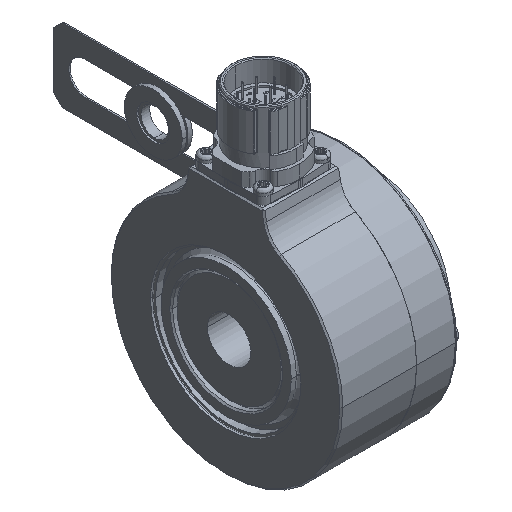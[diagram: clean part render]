
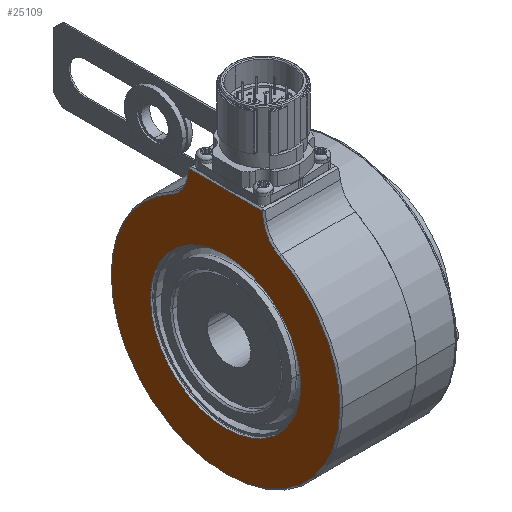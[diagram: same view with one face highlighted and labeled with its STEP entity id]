
A CAD part, isometric view. The second image highlights one B-rep face of the part: STEP entity #25109.
In plain terms, the highlighted planar face has unit normal (-1, 0, 0).
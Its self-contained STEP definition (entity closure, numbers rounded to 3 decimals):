
#107 = ORIENTED_EDGE ( 'NONE', *, *, #14998, .T. ) ;
#1011 = DIRECTION ( 'NONE',  ( -1., 0., 0. ) ) ;
#1221 = CARTESIAN_POINT ( 'NONE',  ( -26., 12.58, 45.5 ) ) ;
#1416 = ORIENTED_EDGE ( 'NONE', *, *, #18289, .T. ) ;
#1670 = DIRECTION ( 'NONE',  ( 1., 0., 0. ) ) ;
#2628 = AXIS2_PLACEMENT_3D ( 'NONE', #32034, #13464, #18656 ) ;
#2667 = VERTEX_POINT ( 'NONE', #11257 ) ;
#3428 = DIRECTION ( 'NONE',  ( 0., -1., 0. ) ) ;
#3826 = CIRCLE ( 'NONE', #28317, 26. ) ;
#3881 = CIRCLE ( 'NONE', #4459, 10.5 ) ;
#4134 = DIRECTION ( 'NONE',  ( -1., 0., 0. ) ) ;
#4459 = AXIS2_PLACEMENT_3D ( 'NONE', #18689, #13492, #35102 ) ;
#4579 = CARTESIAN_POINT ( 'NONE',  ( -26., 21.188, -3.317 ) ) ;
#5997 = VECTOR ( 'NONE', #15822, 1000. ) ;
#6630 = CIRCLE ( 'NONE', #2628, 26. ) ;
#6873 = VERTEX_POINT ( 'NONE', #1221 ) ;
#7732 = EDGE_CURVE ( 'NONE', #29821, #2667, #16906, .T. ) ;
#7979 = CARTESIAN_POINT ( 'NONE',  ( -26., -18.776, 10.364 ) ) ;
#8543 = EDGE_LOOP ( 'NONE', ( #27991, #23730, #20287, #35172, #11501, #107, #1416, #10752 ) ) ;
#9677 = DIRECTION ( 'NONE',  ( -1., 0., 0. ) ) ;
#9714 = CARTESIAN_POINT ( 'NONE',  ( -26., 40., 45.5 ) ) ;
#9810 = CARTESIAN_POINT ( 'NONE',  ( -26., 0., 0. ) ) ;
#10213 = FACE_OUTER_BOUND ( 'NONE', #8543, .T. ) ;
#10752 = ORIENTED_EDGE ( 'NONE', *, *, #26762, .T. ) ;
#10791 = CARTESIAN_POINT ( 'NONE',  ( -26., -13.141, 42.32 ) ) ;
#11257 = CARTESIAN_POINT ( 'NONE',  ( -26., -12.58, 45.5 ) ) ;
#11501 = ORIENTED_EDGE ( 'NONE', *, *, #35064, .T. ) ;
#12240 = LINE ( 'NONE', #9714, #19043 ) ;
#12305 = CARTESIAN_POINT ( 'NONE',  ( -26., 0., 0. ) ) ;
#13086 = DIRECTION ( 'NONE',  ( 0., -1., 0. ) ) ;
#13283 = EDGE_CURVE ( 'NONE', #6873, #34775, #26889, .T. ) ;
#13464 = DIRECTION ( 'NONE',  ( 1., 0., 0. ) ) ;
#13492 = DIRECTION ( 'NONE',  ( 1., 0., 0. ) ) ;
#13621 = CARTESIAN_POINT ( 'NONE',  ( -26., 13.141, 42.32 ) ) ;
#13820 = AXIS2_PLACEMENT_3D ( 'NONE', #33079, #25012, #3428 ) ;
#14004 = CARTESIAN_POINT ( 'NONE',  ( -26., -26., 0. ) ) ;
#14371 = EDGE_CURVE ( 'NONE', #19767, #24884, #6630, .T. ) ;
#14998 = EDGE_CURVE ( 'NONE', #24219, #18734, #23769, .T. ) ;
#15369 = EDGE_CURVE ( 'NONE', #24884, #19767, #3826, .T. ) ;
#15822 = DIRECTION ( 'NONE',  ( 0., 0.174, -0.985 ) ) ;
#16906 = LINE ( 'NONE', #7979, #29752 ) ;
#18102 = VERTEX_POINT ( 'NONE', #23527 ) ;
#18131 = DIRECTION ( 'NONE',  ( 0., 1., 0. ) ) ;
#18149 = DIRECTION ( 'NONE',  ( 0., 1., 0. ) ) ;
#18289 = EDGE_CURVE ( 'NONE', #18734, #22733, #32822, .T. ) ;
#18656 = DIRECTION ( 'NONE',  ( 0., 1., 0. ) ) ;
#18689 = CARTESIAN_POINT ( 'NONE',  ( -26., 23.482, 44.143 ) ) ;
#18734 = VERTEX_POINT ( 'NONE', #25257 ) ;
#19043 = VECTOR ( 'NONE', #18149, 1000. ) ;
#19767 = VERTEX_POINT ( 'NONE', #14004 ) ;
#20287 = ORIENTED_EDGE ( 'NONE', *, *, #13283, .T. ) ;
#22258 = DIRECTION ( 'NONE',  ( 0., 0.174, 0.985 ) ) ;
#22733 = VERTEX_POINT ( 'NONE', #27198 ) ;
#22929 = CIRCLE ( 'NONE', #13820, 10.5 ) ;
#22967 = CARTESIAN_POINT ( 'NONE',  ( -26., 0., 0. ) ) ;
#23193 = DIRECTION ( 'NONE',  ( -1., 0., 0. ) ) ;
#23488 = CIRCLE ( 'NONE', #25776, 39.5 ) ;
#23527 = CARTESIAN_POINT ( 'NONE',  ( -26., 18.551, 34.873 ) ) ;
#23730 = ORIENTED_EDGE ( 'NONE', *, *, #29649, .T. ) ;
#23769 = CIRCLE ( 'NONE', #25467, 39.5 ) ;
#24219 = VERTEX_POINT ( 'NONE', #33658 ) ;
#24884 = VERTEX_POINT ( 'NONE', #32653 ) ;
#25012 = DIRECTION ( 'NONE',  ( 1., 0., 0. ) ) ;
#25109 = ADVANCED_FACE ( 'NONE', ( #10213, #34338 ), #31671, .T. ) ;
#25257 = CARTESIAN_POINT ( 'NONE',  ( -26., -39.5, 0. ) ) ;
#25299 = CARTESIAN_POINT ( 'NONE',  ( -26., 0., 0. ) ) ;
#25467 = AXIS2_PLACEMENT_3D ( 'NONE', #12305, #23193, #33753 ) ;
#25776 = AXIS2_PLACEMENT_3D ( 'NONE', #9810, #4134, #25884 ) ;
#25884 = DIRECTION ( 'NONE',  ( 0., -1., 0. ) ) ;
#25898 = EDGE_LOOP ( 'NONE', ( #33114, #26383 ) ) ;
#25935 = CARTESIAN_POINT ( 'NONE',  ( -26., 40., 0. ) ) ;
#26383 = ORIENTED_EDGE ( 'NONE', *, *, #14371, .T. ) ;
#26762 = EDGE_CURVE ( 'NONE', #22733, #29821, #22929, .T. ) ;
#26889 = LINE ( 'NONE', #4579, #5997 ) ;
#27198 = CARTESIAN_POINT ( 'NONE',  ( -26., -18.551, 34.873 ) ) ;
#27991 = ORIENTED_EDGE ( 'NONE', *, *, #7732, .T. ) ;
#28317 = AXIS2_PLACEMENT_3D ( 'NONE', #25299, #1670, #18131 ) ;
#28516 = EDGE_CURVE ( 'NONE', #34775, #18102, #3881, .T. ) ;
#28804 = AXIS2_PLACEMENT_3D ( 'NONE', #22967, #1011, #34056 ) ;
#29649 = EDGE_CURVE ( 'NONE', #2667, #6873, #12240, .T. ) ;
#29752 = VECTOR ( 'NONE', #22258, 1000. ) ;
#29821 = VERTEX_POINT ( 'NONE', #10791 ) ;
#31671 = PLANE ( 'NONE',  #33130 ) ;
#32034 = CARTESIAN_POINT ( 'NONE',  ( -26., 0., 0. ) ) ;
#32653 = CARTESIAN_POINT ( 'NONE',  ( -26., 26., 0. ) ) ;
#32822 = CIRCLE ( 'NONE', #28804, 39.5 ) ;
#33079 = CARTESIAN_POINT ( 'NONE',  ( -26., -23.482, 44.143 ) ) ;
#33114 = ORIENTED_EDGE ( 'NONE', *, *, #15369, .T. ) ;
#33130 = AXIS2_PLACEMENT_3D ( 'NONE', #25935, #9677, #13086 ) ;
#33658 = CARTESIAN_POINT ( 'NONE',  ( -26., 39.5, 0. ) ) ;
#33753 = DIRECTION ( 'NONE',  ( 0., -1., 0. ) ) ;
#34056 = DIRECTION ( 'NONE',  ( 0., -1., 0. ) ) ;
#34338 = FACE_BOUND ( 'NONE', #25898, .T. ) ;
#34775 = VERTEX_POINT ( 'NONE', #13621 ) ;
#35064 = EDGE_CURVE ( 'NONE', #18102, #24219, #23488, .T. ) ;
#35102 = DIRECTION ( 'NONE',  ( 0., -1., 0. ) ) ;
#35172 = ORIENTED_EDGE ( 'NONE', *, *, #28516, .T. ) ;
